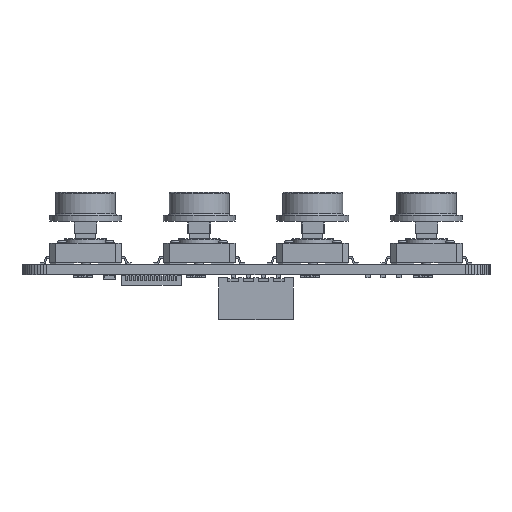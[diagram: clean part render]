
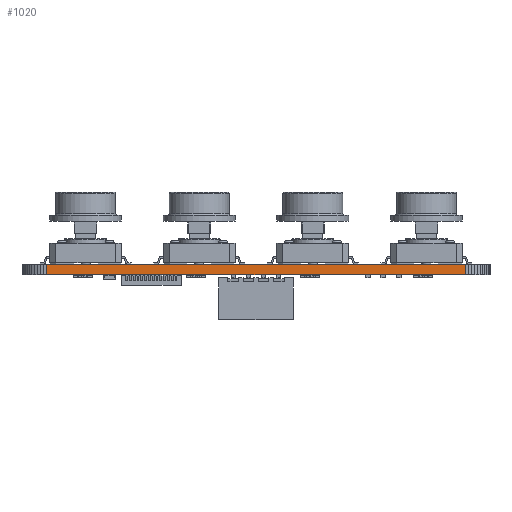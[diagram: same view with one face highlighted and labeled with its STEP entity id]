
A CAD part, front view. The second image highlights one B-rep face of the part: STEP entity #1020.
In plain terms, the highlighted planar face has unit normal (0, -1, 0).
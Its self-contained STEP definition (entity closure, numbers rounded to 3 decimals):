
#195 = PLANE('',#196);
#196 = AXIS2_PLACEMENT_3D('',#197,#198,#199);
#197 = CARTESIAN_POINT('',(-0.101,3.46,1.691));
#198 = DIRECTION('',(0.,0.,-1.));
#199 = DIRECTION('',(-1.,0.,0.));
#249 = PLANE('',#250);
#250 = AXIS2_PLACEMENT_3D('',#251,#252,#253);
#251 = CARTESIAN_POINT('',(-0.101,3.46,0.));
#252 = DIRECTION('',(0.,0.,-1.));
#253 = DIRECTION('',(-1.,0.,0.));
#912 = PLANE('',#913);
#913 = AXIS2_PLACEMENT_3D('',#914,#915,#916);
#914 = CARTESIAN_POINT('',(3.46,-0.101,0.));
#915 = DIRECTION('',(0.065,0.998,0.));
#916 = DIRECTION('',(0.998,-0.065,0.));
#950 = VERTEX_POINT('',#951);
#951 = CARTESIAN_POINT('',(3.999,-0.136,1.691));
#972 = EDGE_CURVE('',#973,#950,#975,.T.);
#973 = VERTEX_POINT('',#974);
#974 = CARTESIAN_POINT('',(3.999,-0.136,0.));
#975 = SURFACE_CURVE('',#976,(#980,#987),.PCURVE_S1.);
#976 = LINE('',#977,#978);
#977 = CARTESIAN_POINT('',(3.999,-0.136,0.));
#978 = VECTOR('',#979,1.);
#979 = DIRECTION('',(0.,0.,1.));
#980 = PCURVE('',#912,#981);
#981 = DEFINITIONAL_REPRESENTATION('',(#982),#986);
#982 = LINE('',#983,#984);
#983 = CARTESIAN_POINT('',(0.54,0.));
#984 = VECTOR('',#985,1.);
#985 = DIRECTION('',(0.,-1.));
#986 = ( GEOMETRIC_REPRESENTATION_CONTEXT(2) 
PARAMETRIC_REPRESENTATION_CONTEXT() REPRESENTATION_CONTEXT('2D SPACE',''
  ) );
#987 = PCURVE('',#988,#993);
#988 = PLANE('',#989);
#989 = AXIS2_PLACEMENT_3D('',#990,#991,#992);
#990 = CARTESIAN_POINT('',(3.999,-0.136,0.));
#991 = DIRECTION('',(0.,1.,0.));
#992 = DIRECTION('',(1.,0.,0.));
#993 = DEFINITIONAL_REPRESENTATION('',(#994),#998);
#994 = LINE('',#995,#996);
#995 = CARTESIAN_POINT('',(0.,0.));
#996 = VECTOR('',#997,1.);
#997 = DIRECTION('',(0.,-1.));
#998 = ( GEOMETRIC_REPRESENTATION_CONTEXT(2) 
PARAMETRIC_REPRESENTATION_CONTEXT() REPRESENTATION_CONTEXT('2D SPACE',''
  ) );
#1020 = ADVANCED_FACE('',(#1021),#988,.F.);
#1021 = FACE_BOUND('',#1022,.F.);
#1022 = EDGE_LOOP('',(#1023,#1024,#1047,#1075));
#1023 = ORIENTED_EDGE('',*,*,#972,.T.);
#1024 = ORIENTED_EDGE('',*,*,#1025,.T.);
#1025 = EDGE_CURVE('',#950,#1026,#1028,.T.);
#1026 = VERTEX_POINT('',#1027);
#1027 = CARTESIAN_POINT('',(74.,-0.127,1.691));
#1028 = SURFACE_CURVE('',#1029,(#1033,#1040),.PCURVE_S1.);
#1029 = LINE('',#1030,#1031);
#1030 = CARTESIAN_POINT('',(3.999,-0.136,1.691));
#1031 = VECTOR('',#1032,1.);
#1032 = DIRECTION('',(1.,0.,0.));
#1033 = PCURVE('',#988,#1034);
#1034 = DEFINITIONAL_REPRESENTATION('',(#1035),#1039);
#1035 = LINE('',#1036,#1037);
#1036 = CARTESIAN_POINT('',(0.,-1.691));
#1037 = VECTOR('',#1038,1.);
#1038 = DIRECTION('',(1.,0.));
#1039 = ( GEOMETRIC_REPRESENTATION_CONTEXT(2) 
PARAMETRIC_REPRESENTATION_CONTEXT() REPRESENTATION_CONTEXT('2D SPACE',''
  ) );
#1040 = PCURVE('',#195,#1041);
#1041 = DEFINITIONAL_REPRESENTATION('',(#1042),#1046);
#1042 = LINE('',#1043,#1044);
#1043 = CARTESIAN_POINT('',(-4.1,-3.596));
#1044 = VECTOR('',#1045,1.);
#1045 = DIRECTION('',(-1.,0.));
#1046 = ( GEOMETRIC_REPRESENTATION_CONTEXT(2) 
PARAMETRIC_REPRESENTATION_CONTEXT() REPRESENTATION_CONTEXT('2D SPACE',''
  ) );
#1047 = ORIENTED_EDGE('',*,*,#1048,.F.);
#1048 = EDGE_CURVE('',#1049,#1026,#1051,.T.);
#1049 = VERTEX_POINT('',#1050);
#1050 = CARTESIAN_POINT('',(74.,-0.127,0.));
#1051 = SURFACE_CURVE('',#1052,(#1056,#1063),.PCURVE_S1.);
#1052 = LINE('',#1053,#1054);
#1053 = CARTESIAN_POINT('',(74.,-0.127,0.));
#1054 = VECTOR('',#1055,1.);
#1055 = DIRECTION('',(0.,0.,1.));
#1056 = PCURVE('',#988,#1057);
#1057 = DEFINITIONAL_REPRESENTATION('',(#1058),#1062);
#1058 = LINE('',#1059,#1060);
#1059 = CARTESIAN_POINT('',(70.001,0.));
#1060 = VECTOR('',#1061,1.);
#1061 = DIRECTION('',(0.,-1.));
#1062 = ( GEOMETRIC_REPRESENTATION_CONTEXT(2) 
PARAMETRIC_REPRESENTATION_CONTEXT() REPRESENTATION_CONTEXT('2D SPACE',''
  ) );
#1063 = PCURVE('',#1064,#1069);
#1064 = PLANE('',#1065);
#1065 = AXIS2_PLACEMENT_3D('',#1066,#1067,#1068);
#1066 = CARTESIAN_POINT('',(74.,-0.127,0.));
#1067 = DIRECTION('',(-0.049,0.999,0.));
#1068 = DIRECTION('',(0.999,0.049,0.));
#1069 = DEFINITIONAL_REPRESENTATION('',(#1070),#1074);
#1070 = LINE('',#1071,#1072);
#1071 = CARTESIAN_POINT('',(0.,0.));
#1072 = VECTOR('',#1073,1.);
#1073 = DIRECTION('',(0.,-1.));
#1074 = ( GEOMETRIC_REPRESENTATION_CONTEXT(2) 
PARAMETRIC_REPRESENTATION_CONTEXT() REPRESENTATION_CONTEXT('2D SPACE',''
  ) );
#1075 = ORIENTED_EDGE('',*,*,#1076,.F.);
#1076 = EDGE_CURVE('',#973,#1049,#1077,.T.);
#1077 = SURFACE_CURVE('',#1078,(#1082,#1089),.PCURVE_S1.);
#1078 = LINE('',#1079,#1080);
#1079 = CARTESIAN_POINT('',(3.999,-0.136,0.));
#1080 = VECTOR('',#1081,1.);
#1081 = DIRECTION('',(1.,0.,0.));
#1082 = PCURVE('',#988,#1083);
#1083 = DEFINITIONAL_REPRESENTATION('',(#1084),#1088);
#1084 = LINE('',#1085,#1086);
#1085 = CARTESIAN_POINT('',(0.,0.));
#1086 = VECTOR('',#1087,1.);
#1087 = DIRECTION('',(1.,0.));
#1088 = ( GEOMETRIC_REPRESENTATION_CONTEXT(2) 
PARAMETRIC_REPRESENTATION_CONTEXT() REPRESENTATION_CONTEXT('2D SPACE',''
  ) );
#1089 = PCURVE('',#249,#1090);
#1090 = DEFINITIONAL_REPRESENTATION('',(#1091),#1095);
#1091 = LINE('',#1092,#1093);
#1092 = CARTESIAN_POINT('',(-4.1,-3.596));
#1093 = VECTOR('',#1094,1.);
#1094 = DIRECTION('',(-1.,0.));
#1095 = ( GEOMETRIC_REPRESENTATION_CONTEXT(2) 
PARAMETRIC_REPRESENTATION_CONTEXT() REPRESENTATION_CONTEXT('2D SPACE',''
  ) );
